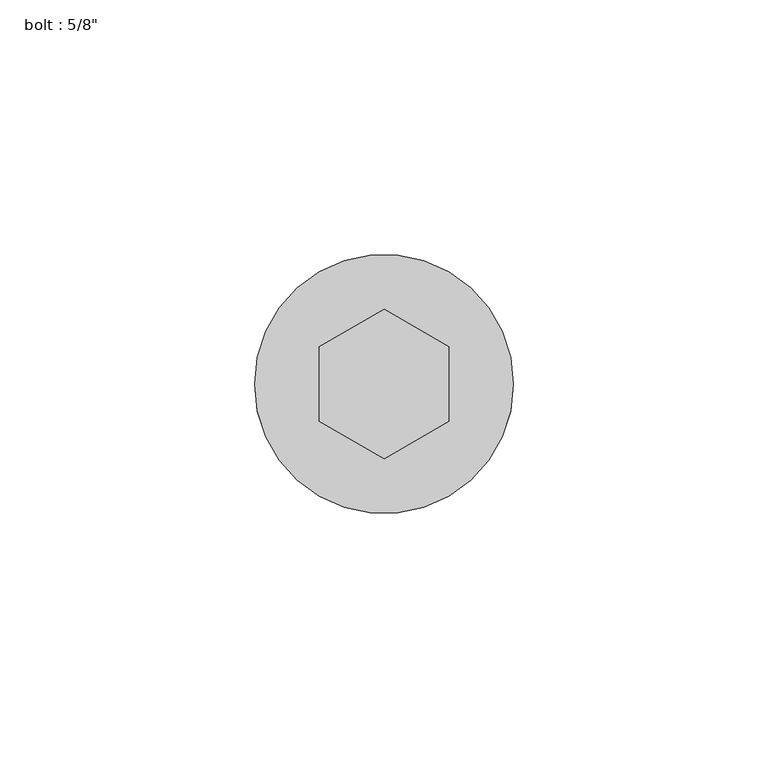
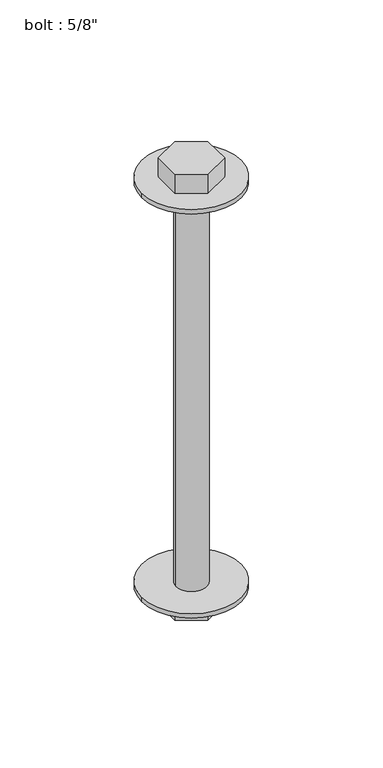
"""IFC4 building model written with IfcOpenShell, lengths in millimetres: proxy geometry."""

from ifc_helpers import new_model, si_unit, point, frame, origin, origin_with_axes, origin_2d, place, context, project, spatial, circle_curve, trimmed, segment, composite_curve, outline, extrude, source, transform, mapped, element, save
from ifc_brep_helpers import plane_surface, cylinder_surface, advanced_brep


def proxy_280ef96e(model_context):
    return source(origin(), model_context, "Body", "SolidModel", [
        extrude(outline(composite_curve([segment(trimmed(circle_curve(origin_2d(), 7.9375), [point((-7.9375, 0.0))], [point((7.9375, 0.0))], False, "CARTESIAN"), True, "CONTINUOUS"), segment(trimmed(circle_curve(origin_2d(), 7.9375), [point((7.9375, 0.0))], [point((-7.9375, 0.0))], False, "CARTESIAN"), True, "CONTINUOUS")], self_intersect=False)), frame((0.0, 0.0, -231.775), z_axis=(0.0, 0.0, 1.0), x_axis=(1.0, 0.0, 0.0)), (0.0, 0.0, 1.0), 231.775),
        advanced_brep(
        [(-25.4, 0.0, 2.38125), (25.4, 0.0, 2.38125), (-12.7, 7.3323484, 2.38125), (0.0, 14.6646968, 2.38125), (12.7, 7.3323484, 2.38125), (12.7, -7.3323484, 2.38125), (0.0, -14.6646968, 2.38125), (-12.7, -7.3323484, 2.38125), (-25.4, 0.0, 0.0), (25.4, 0.0, 0.0), (0.0, 14.6646968, 12.5015625), (-12.7, 7.3323484, 12.5015625), (-12.7, -7.3323484, 12.5015625), (0.0, -14.6646968, 12.5015625), (12.7, -7.3323484, 12.5015625), (12.7, 7.3323484, 12.5015625)],
        [
            (0, 1, circle_curve(frame((0.0, 0.0, 2.38125), z_axis=(0.0, 0.0, 1.0), x_axis=(1.0, 0.0, 0.0)), 25.4)),
            (1, 0, circle_curve(frame((0.0, 0.0, 2.38125), z_axis=(0.0, 0.0, 1.0), x_axis=(1.0, 0.0, 0.0)), 25.4)),
            (2, 3),
            (3, 4),
            (4, 5),
            (5, 6),
            (6, 7),
            (7, 2),
            (8, 9, circle_curve(frame((0.0, 0.0, 0.0), z_axis=(0.0, 0.0, -1.0), x_axis=(1.0, 0.0, 0.0)), 25.4)),
            (9, 8, circle_curve(frame((0.0, 0.0, 0.0), z_axis=(0.0, 0.0, -1.0), x_axis=(1.0, 0.0, 0.0)), 25.4)),
            (0, 8),
            (9, 1),
            (10, 11),
            (11, 12),
            (12, 13),
            (13, 14),
            (14, 15),
            (15, 10),
            (10, 3),
            (2, 11),
            (7, 12),
            (6, 13),
            (5, 14),
            (4, 15),
        ],
        [
            plane_surface(frame((25.4, 0.0, 2.38125), z_axis=(0.0, 0.0, 1.0), x_axis=(0.0, 1.0, 0.0))),
            plane_surface(frame((25.4, 0.0, 0.0), z_axis=(0.0, 0.0, -1.0), x_axis=(0.0, -1.0, 0.0))),
            cylinder_surface(origin_with_axes(), 25.4),
            plane_surface(frame((0.0, 14.6646968, 12.5015625), z_axis=(0.0, 0.0, 1.0000000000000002), x_axis=(-0.866025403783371, -0.5000000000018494, 0.0))),
            plane_surface(frame((0.0, 14.6646968, 12.5015625), z_axis=(-0.5000000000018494, 0.866025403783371, 0.0), x_axis=(0.0, 0.0, -1.0))),
            plane_surface(frame((-12.7, 7.3323484, 12.5015625), z_axis=(-1.0, 0.0, 0.0), x_axis=(0.0, 0.0, -1.0))),
            plane_surface(frame((-12.7, -7.3323484, 12.5015625), z_axis=(-0.4999999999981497, -0.866025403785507, 0.0), x_axis=(0.0, 0.0, -1.0))),
            plane_surface(frame((0.0, -14.6646968, 12.5015625), z_axis=(0.5000000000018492, -0.8660254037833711, 0.0), x_axis=(0.0, 0.0, -1.0))),
            plane_surface(frame((12.7, -7.3323484, 12.5015625), z_axis=(1.0, 0.0, 0.0), x_axis=(0.0, 0.0, -1.0))),
            plane_surface(frame((12.7, 7.3323484, 12.5015625), z_axis=(0.4999999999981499, 0.8660254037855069, 0.0), x_axis=(0.0, 0.0, -1.0))),
        ],
        [
            (0, [[1, 2], [3, 4, 5, 6, 7, 8]]),
            (1, [[9, 10]]),
            (2, [[-1, 11, -10, 12]]),
            (2, [[-2, -12, -9, -11]]),
            (3, [[13, 14, 15, 16, 17, 18]]),
            (4, [[-13, 19, -3, 20]]),
            (5, [[-14, -20, -8, 21]]),
            (6, [[-15, -21, -7, 22]]),
            (7, [[-16, -22, -6, 23]]),
            (8, [[-17, -23, -5, 24]]),
            (9, [[-18, -24, -4, -19]]),
        ],
    ),
        advanced_brep(
        [(-25.4, 0.0, -215.9), (25.4, 0.0, -215.9), (-25.4, 0.0, -218.28125), (25.4, 0.0, -218.28125), (0.0, 14.6646968, -218.28125), (-12.7, 7.3323484, -218.28125), (-12.7, -7.3323484, -218.28125), (0.0, -14.6646968, -218.28125), (12.7, -7.3323484, -218.28125), (12.7, 7.3323484, -218.28125), (0.0, 14.6646968, -228.4015625), (12.7, 7.3323484, -228.4015625), (12.7, -7.3323484, -228.4015625), (0.0, -14.6646968, -228.4015625), (-12.7, -7.3323484, -228.4015625), (-12.7, 7.3323484, -228.4015625)],
        [
            (0, 1, circle_curve(frame((0.0, 0.0, -215.9), z_axis=(0.0, 0.0, 1.0), x_axis=(1.0, 0.0, 0.0)), 25.4)),
            (1, 0, circle_curve(frame((0.0, 0.0, -215.9), z_axis=(0.0, 0.0, 1.0), x_axis=(1.0, 0.0, 0.0)), 25.4)),
            (2, 3, circle_curve(frame((0.0, 0.0, -218.28125), z_axis=(0.0, 0.0, -1.0), x_axis=(1.0, 0.0, 0.0)), 25.4)),
            (3, 2, circle_curve(frame((0.0, 0.0, -218.28125), z_axis=(0.0, 0.0, -1.0), x_axis=(1.0, 0.0, 0.0)), 25.4)),
            (4, 5),
            (5, 6),
            (6, 7),
            (7, 8),
            (8, 9),
            (9, 4),
            (0, 2),
            (3, 1),
            (10, 11),
            (11, 12),
            (12, 13),
            (13, 14),
            (14, 15),
            (15, 10),
            (15, 5),
            (4, 10),
            (14, 6),
            (13, 7),
            (12, 8),
            (11, 9),
        ],
        [
            plane_surface(frame((25.4, 0.0, -215.9), z_axis=(0.0, 0.0, 1.0), x_axis=(0.0, 1.0, 0.0))),
            plane_surface(frame((25.4, 0.0, -218.28125), z_axis=(0.0, 0.0, -1.0), x_axis=(0.0, -1.0, 0.0))),
            cylinder_surface(frame((0.0, 0.0, -218.28125), z_axis=(0.0, 0.0, 1.0), x_axis=(1.0, 0.0, 0.0)), 25.4),
            plane_surface(frame((0.0, 14.6646968, -228.4015625), z_axis=(0.0, 0.0, -1.0), x_axis=(0.866025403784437, 0.5000000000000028, 0.0))),
            plane_surface(frame((0.0, 14.6646968, -218.28125), z_axis=(-0.5000000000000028, 0.866025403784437, 0.0), x_axis=(0.0, 0.0, -1.0))),
            plane_surface(frame((-12.7, 7.3323484, -218.28125), z_axis=(-1.0, 0.0, 0.0), x_axis=(0.0, 0.0, -1.0))),
            plane_surface(frame((-12.7, -7.3323484, -218.28125), z_axis=(-0.4999999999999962, -0.8660254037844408, 0.0), x_axis=(0.0, 0.0, -1.0))),
            plane_surface(frame((0.0, -14.6646968, -218.28125), z_axis=(0.5000000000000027, -0.8660254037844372, 0.0), x_axis=(0.0, 0.0, -1.0))),
            plane_surface(frame((12.7, -7.3323484, -218.28125), z_axis=(1.0, 0.0, 0.0), x_axis=(0.0, 0.0, -1.0))),
            plane_surface(frame((12.7, 7.3323484, -218.28125), z_axis=(0.4999999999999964, 0.8660254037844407, 0.0), x_axis=(0.0, 0.0, -1.0))),
        ],
        [
            (0, [[1, 2]]),
            (1, [[3, 4], [5, 6, 7, 8, 9, 10]]),
            (2, [[-1, 11, -4, 12]]),
            (2, [[-2, -12, -3, -11]]),
            (3, [[13, 14, 15, 16, 17, 18]]),
            (4, [[-18, 19, -5, 20]]),
            (5, [[-17, 21, -6, -19]]),
            (6, [[-16, 22, -7, -21]]),
            (7, [[-15, 23, -8, -22]]),
            (8, [[-14, 24, -9, -23]]),
            (9, [[-13, -20, -10, -24]]),
        ],
    ),
    ])


if __name__ == "__main__":
    model = new_model("IFC4")
    model_context = context("Model", 3, world=origin())
    ifc_project = project(units=[si_unit("LENGTHUNIT", "METRE", prefix="MILLI")], contexts=[model_context])
    site = spatial("IfcSite", under=ifc_project)
    building = spatial("IfcBuilding", under=site)
    placement = place(None, origin())
    proxy_shape = proxy_280ef96e(model_context)
    element("IfcBuildingElementProxy", 1, Name="bolt : 5/8\"", ObjectType="bolt : 5/8\"", at=placement, inside=building, context=model_context, shape_type="MappedRepresentation", body=[
        mapped(proxy_shape, transform((0.0, 0.0, 0.0), x_axis=(1.0, 0.0, 0.0), y_axis=(0.0, 1.0, 0.0), z_axis=(0.0, 0.0, 1.0))),
    ])
    save(model, "model.ifc")
